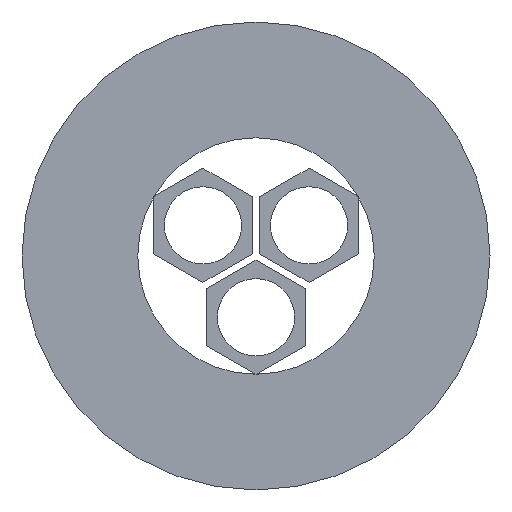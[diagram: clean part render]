
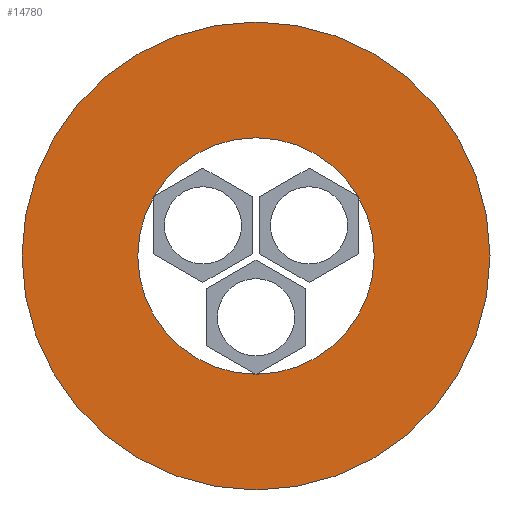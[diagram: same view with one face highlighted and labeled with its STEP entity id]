
A CAD part, front view. The second image highlights one B-rep face of the part: STEP entity #14780.
In plain terms, the highlighted planar face has unit normal (0, -1, 0).
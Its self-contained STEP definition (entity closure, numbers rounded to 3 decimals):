
#12980=CARTESIAN_POINT('',(-329.091,36.935,
0.));
#12990=VERTEX_POINT('',#12980);
#13020=CARTESIAN_POINT('',(-319.291,36.935,0.));
#13030=DIRECTION('',(0.,1.,0.));
#13040=DIRECTION('',(1.,0.,0.));
#13050=AXIS2_PLACEMENT_3D('',#13020,#13030,#13040);
#13060=CIRCLE('',#13050,9.8);
#13070=CARTESIAN_POINT('',(-309.491,36.935,0.));
#13080=VERTEX_POINT('',#13070);
#13090=EDGE_CURVE('',#12990,#13080,#13060,.T.);
#14400=CARTESIAN_POINT('',(-338.691,36.935,0.));
#14410=VERTEX_POINT('',#14400);
#14440=CARTESIAN_POINT('',(-319.291,36.935,0.));
#14450=DIRECTION('',(0.,-1.,0.));
#14460=DIRECTION('',(1.,0.,0.));
#14470=AXIS2_PLACEMENT_3D('',#14440,#14450,#14460);
#14480=CIRCLE('',#14470,19.4);
#14490=CARTESIAN_POINT('',(-299.891,36.935,
0.));
#14500=VERTEX_POINT('',#14490);
#14510=EDGE_CURVE('',#14410,#14500,#14480,.T.);
#14630=CARTESIAN_POINT('',(-309.591,36.935,
0.));
#14640=DIRECTION('',(0.,-1.,0.));
#14650=DIRECTION('',(1.,0.,0.));
#14660=AXIS2_PLACEMENT_3D('',#14630,#14640,#14650);
#14670=PLANE('',#14660);
#14680=EDGE_CURVE('',#14500,#14410,#14480,.T.);
#14690=ORIENTED_EDGE('',*,*,#14680,.T.);
#14700=ORIENTED_EDGE('',*,*,#14510,.T.);
#14710=EDGE_LOOP('',(#14700,#14690));
#14720=FACE_OUTER_BOUND('',#14710,.T.);
#14730=EDGE_CURVE('',#13080,#12990,#13060,.T.);
#14740=ORIENTED_EDGE('',*,*,#14730,.T.);
#14750=ORIENTED_EDGE('',*,*,#13090,.T.);
#14760=EDGE_LOOP('',(#14750,#14740));
#14770=FACE_BOUND('',#14760,.T.);
#14780=ADVANCED_FACE('',(#14720,#14770),#14670,.T.);
